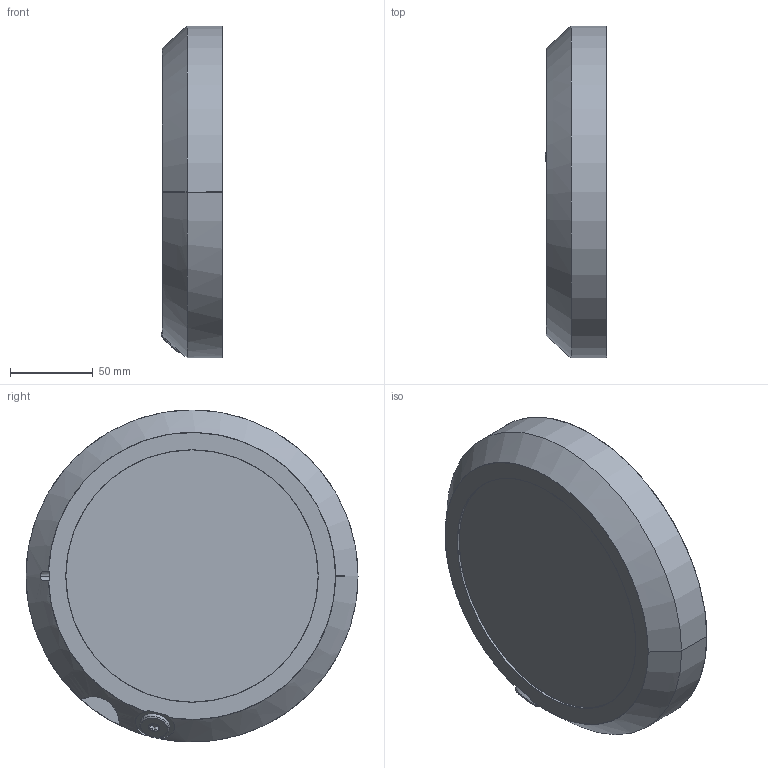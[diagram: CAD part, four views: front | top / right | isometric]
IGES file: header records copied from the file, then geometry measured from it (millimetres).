
Start section: SolidWorks IGES file using analytic representation for surfaces
Global section: file name: C:\Data\SAP_DOC\LW\IRB 6720\IRB6720-MH3_160kg-320_OC_01_SW_J\IRB6720-MH3_160kg-320_OC_01_IGES_J\IRB6720-MH3_160kg-320_OC_00_LINK06_CAD.igs; native system: SolidWorks 2024; preprocessor: SolidWorks 2024; author: SEJOVAS3; date: 260610.134207; units: millimetre
Bounding box: 37.06 x 200 x 200 mm (x, y, z)
Surface area: 109061.4 mm2 (no closed solid volume)
Topology: 0 solids, 0 shells, 210 faces, 3651 edges, 3627 vertices
Faces by surface type: revolution 163, bspline 47
